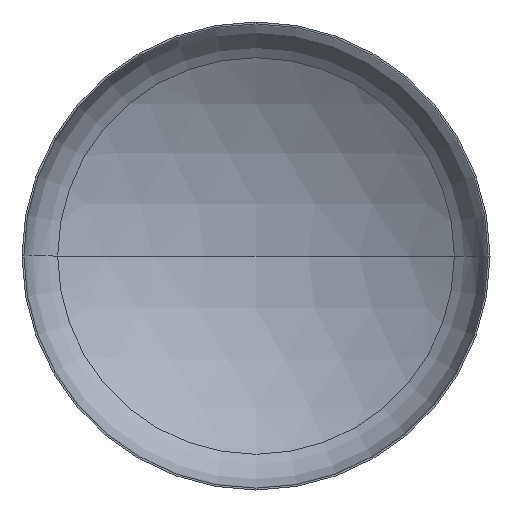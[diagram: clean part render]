
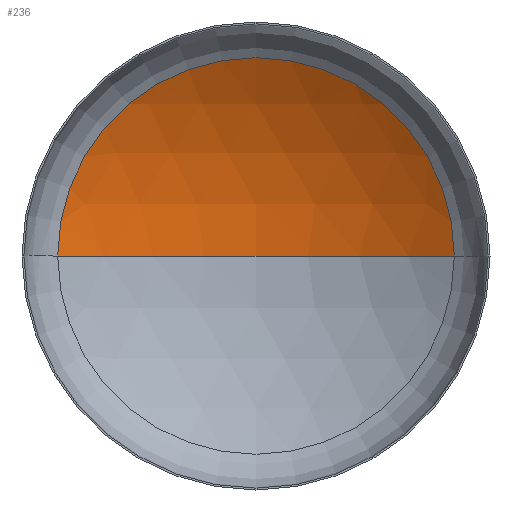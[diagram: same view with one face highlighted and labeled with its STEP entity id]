
A CAD part, front view. The second image highlights one B-rep face of the part: STEP entity #236.
In plain terms, the highlighted spherical face has radius 6400 mm.
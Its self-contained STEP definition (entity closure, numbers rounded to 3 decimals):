
#12 = DIRECTION ( 'NONE',  ( 0., 0., -1. ) ) ;
#14 = DIRECTION ( 'NONE',  ( 1., 0., 0. ) ) ;
#26 = AXIS2_PLACEMENT_3D ( 'NONE', #87, #12, #90 ) ;
#36 = FACE_OUTER_BOUND ( 'NONE', #229, .T. ) ;
#53 = AXIS2_PLACEMENT_3D ( 'NONE', #114, #221, #14 ) ;
#54 = AXIS2_PLACEMENT_3D ( 'NONE', #134, #130, #132 ) ;
#57 = AXIS2_PLACEMENT_3D ( 'NONE', #246, #244, #151 ) ;
#70 = CARTESIAN_POINT ( 'NONE',  ( 0., 2114.54, 0. ) ) ;
#77 = CIRCLE ( 'NONE', #53, 6400. ) ;
#87 = CARTESIAN_POINT ( 'NONE',  ( 0., -4285.46, 0. ) ) ;
#90 = DIRECTION ( 'NONE',  ( -1., 0., 0. ) ) ;
#113 = EDGE_CURVE ( 'NONE', #340, #376, #320, .T. ) ;
#114 = CARTESIAN_POINT ( 'NONE',  ( 0., -4285.46, 0. ) ) ;
#116 = EDGE_CURVE ( 'NONE', #347, #340, #243, .T. ) ;
#119 = EDGE_CURVE ( 'NONE', #347, #376, #77, .T. ) ;
#130 = DIRECTION ( 'NONE',  ( 0., 0., -1. ) ) ;
#132 = DIRECTION ( 'NONE',  ( -1., 0., 0. ) ) ;
#134 = CARTESIAN_POINT ( 'NONE',  ( 0., -4285.46, 0. ) ) ;
#151 = DIRECTION ( 'NONE',  ( 1., 0., 0. ) ) ;
#180 = ORIENTED_EDGE ( 'NONE', *, *, #113, .T. ) ;
#221 = DIRECTION ( 'NONE',  ( 0., 0., 1. ) ) ;
#229 = EDGE_LOOP ( 'NONE', ( #383, #352, #180 ) ) ;
#236 = ADVANCED_FACE ( 'NONE', ( #36 ), #380, .F. ) ;
#243 = CIRCLE ( 'NONE', #54, 6400. ) ;
#244 = DIRECTION ( 'NONE',  ( 0., -1., 0. ) ) ;
#246 = CARTESIAN_POINT ( 'NONE',  ( 0., 1143.349, 0. ) ) ;
#248 = CARTESIAN_POINT ( 'NONE',  ( 3389.4, 1143.349, 0. ) ) ;
#320 = CIRCLE ( 'NONE', #57, 3389.4 ) ;
#340 = VERTEX_POINT ( 'NONE', #248 ) ;
#347 = VERTEX_POINT ( 'NONE', #70 ) ;
#352 = ORIENTED_EDGE ( 'NONE', *, *, #116, .T. ) ;
#376 = VERTEX_POINT ( 'NONE', #400 ) ;
#380 = SPHERICAL_SURFACE ( 'NONE', #26, 6400. ) ;
#383 = ORIENTED_EDGE ( 'NONE', *, *, #119, .F. ) ;
#400 = CARTESIAN_POINT ( 'NONE',  ( -3389.4, 1143.349, 0. ) ) ;
